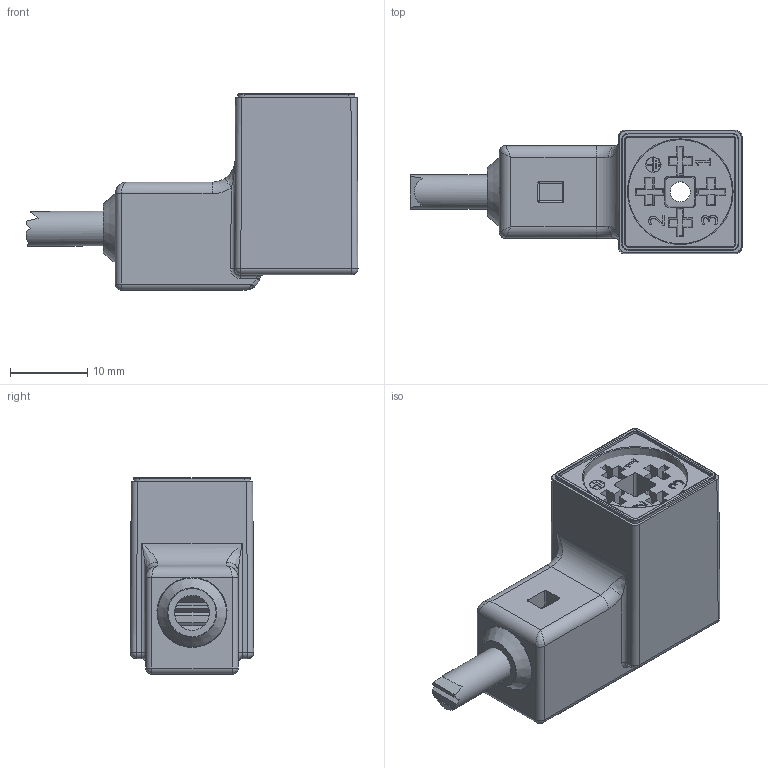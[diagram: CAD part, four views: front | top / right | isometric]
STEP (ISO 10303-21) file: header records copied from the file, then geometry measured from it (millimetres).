
FILE_DESCRIPTION((''),'2;1');
FILE_NAME('C:\Users\enrico\Desktop\Ale\File 3d catalogo\Connettori per attuatori Serie DIN\DIN C ISO.stp','2020-07-17T14:17:15',('Tecnico2'),(''),'Autodesk Inventor 2012','Autodesk Inventor 2012','');
FILE_SCHEMA(('AUTOMOTIVE_DESIGN { 1 0 10303 214 1 1 1 1 }'));
Length unit declared in the file: millimetre
Products named in the file (3): 48414_Din 3P+1T  terra H6 forma C ISO 8mm; Corpo pvc forma C; connettore forma C ISO 8mm 3P 1T
Assembly tree (2 placements, depth 2):
  48414_Din 3P+1T  terra H6 forma C ISO 8mm
    Corpo pvc forma C
    connettore forma C ISO 8mm 3P 1T
Bounding box: 43.03 x 15.99 x 25.45 mm (x, y, z)
Volume: 8165.2 mm3; surface area: 5876.5 mm2
Topology: 2 solids, 2 shells, 414 faces, 1069 edges, 672 vertices
Faces by surface type: plane 233, cylinder 103, bspline 43, torus 23, sphere 10, cone 2
Full cylindrical faces by diameter (mm): 1.1 x4, 1.15 x2, 1.9 x1, 2 x1, 2.6 x1, 3.2 x1, 3.95 x1, 4.2 x1, 4.5 x1, 6.5 x1, 13.5 x1
Entity records: 12822 total; most frequent: CARTESIAN_POINT 2928, ORIENTED_EDGE 2046, DIRECTION 1950, EDGE_CURVE 1023, VECTOR 694, LINE 694, VERTEX_POINT 662, AXIS2_PLACEMENT_3D 628
